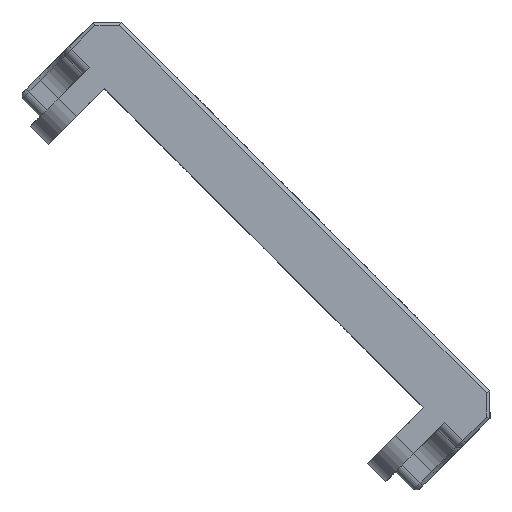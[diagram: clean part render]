
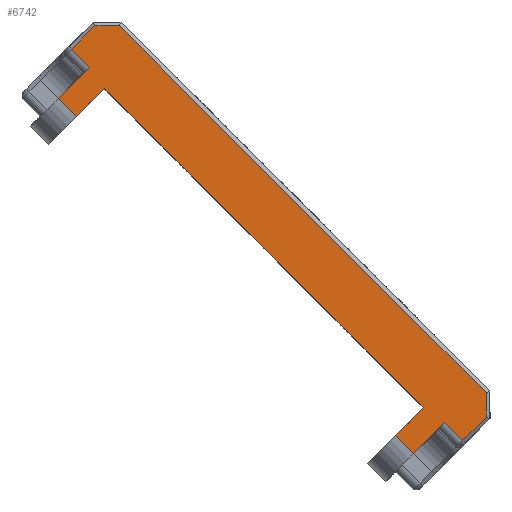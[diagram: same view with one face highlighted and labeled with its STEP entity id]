
A CAD part, front view. The second image highlights one B-rep face of the part: STEP entity #6742.
In plain terms, the highlighted planar face has unit normal (0, -1, 0) as drawn and (-1, 0, 0) by its records, which use the part's own axes.
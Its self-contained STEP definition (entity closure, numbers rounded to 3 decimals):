
#43 = VERTEX_POINT ( 'NONE', #912 ) ;
#245 = VECTOR ( 'NONE', #10653, 1000. ) ;
#825 = CARTESIAN_POINT ( 'NONE',  ( -10., -2., -11.5 ) ) ;
#912 = CARTESIAN_POINT ( 'NONE',  ( -10., -2., 11.5 ) ) ;
#921 = VERTEX_POINT ( 'NONE', #1968 ) ;
#1010 = VECTOR ( 'NONE', #7386, 1000. ) ;
#1085 = EDGE_CURVE ( 'NONE', #12930, #43, #3276, .T. ) ;
#1156 = CARTESIAN_POINT ( 'NONE',  ( -10., 0., 11.5 ) ) ;
#1175 = VERTEX_POINT ( 'NONE', #12119 ) ;
#1220 = CARTESIAN_POINT ( 'NONE',  ( -10., 0., -11.5 ) ) ;
#1415 = CARTESIAN_POINT ( 'NONE',  ( -10., -2., 12.8 ) ) ;
#1460 = VECTOR ( 'NONE', #5106, 1000. ) ;
#1518 = LINE ( 'NONE', #13135, #8448 ) ;
#1664 = CARTESIAN_POINT ( 'NONE',  ( -10., 0., 11.5 ) ) ;
#1678 = LINE ( 'NONE', #1747, #3766 ) ;
#1747 = CARTESIAN_POINT ( 'NONE',  ( -10., 1.917, 14.1 ) ) ;
#1856 = DIRECTION ( 'NONE',  ( 0., -1., 0. ) ) ;
#1968 = CARTESIAN_POINT ( 'NONE',  ( -10., 1.917, 14.1 ) ) ;
#1985 = VECTOR ( 'NONE', #13143, 1000. ) ;
#2526 = CARTESIAN_POINT ( 'NONE',  ( -10., 1.917, -14.1 ) ) ;
#2829 = EDGE_CURVE ( 'NONE', #4693, #10116, #1518, .T. ) ;
#2855 = CARTESIAN_POINT ( 'NONE',  ( -10., 0.25, -14.1 ) ) ;
#2857 = DIRECTION ( 'NONE',  ( 0., -1., 0. ) ) ;
#2974 = EDGE_CURVE ( 'NONE', #6584, #13134, #3874, .T. ) ;
#3192 = LINE ( 'NONE', #4362, #245 ) ;
#3276 = LINE ( 'NONE', #3350, #8897 ) ;
#3350 = CARTESIAN_POINT ( 'NONE',  ( -10., 0., 11.5 ) ) ;
#3653 = CARTESIAN_POINT ( 'NONE',  ( -10., 0.25, 12.8 ) ) ;
#3705 = CARTESIAN_POINT ( 'NONE',  ( -10., 1.917, 14.1 ) ) ;
#3766 = VECTOR ( 'NONE', #2857, 1000. ) ;
#3874 = LINE ( 'NONE', #825, #10103 ) ;
#4140 = VERTEX_POINT ( 'NONE', #9285 ) ;
#4362 = CARTESIAN_POINT ( 'NONE',  ( -10., 0.25, -14.1 ) ) ;
#4417 = CARTESIAN_POINT ( 'NONE',  ( -10., -2., -12.8 ) ) ;
#4656 = DIRECTION ( 'NONE',  ( 0., 0., -1. ) ) ;
#4693 = VERTEX_POINT ( 'NONE', #8414 ) ;
#4694 = LINE ( 'NONE', #12990, #7420 ) ;
#4711 = LINE ( 'NONE', #6651, #1985 ) ;
#4940 = CARTESIAN_POINT ( 'NONE',  ( -10., 0.25, -12.8 ) ) ;
#5055 = VECTOR ( 'NONE', #12353, 1000. ) ;
#5106 = DIRECTION ( 'NONE',  ( 0., -1., 0. ) ) ;
#5738 = EDGE_CURVE ( 'NONE', #11134, #13134, #8979, .T. ) ;
#5779 = ORIENTED_EDGE ( 'NONE', *, *, #12765, .T. ) ;
#5784 = ORIENTED_EDGE ( 'NONE', *, *, #10753, .T. ) ;
#5871 = VECTOR ( 'NONE', #7678, 1000. ) ;
#5899 = VECTOR ( 'NONE', #4656, 1000. ) ;
#6047 = VERTEX_POINT ( 'NONE', #11152 ) ;
#6189 = EDGE_CURVE ( 'NONE', #6894, #11004, #12468, .T. ) ;
#6249 = AXIS2_PLACEMENT_3D ( 'NONE', #7673, #12155, #12987 ) ;
#6584 = VERTEX_POINT ( 'NONE', #9472 ) ;
#6651 = CARTESIAN_POINT ( 'NONE',  ( -10., -2., 12.8 ) ) ;
#6669 = LINE ( 'NONE', #1415, #5899 ) ;
#6742 = ADVANCED_FACE ( 'NONE', ( #6767 ), #8981, .T. ) ;
#6767 = FACE_OUTER_BOUND ( 'NONE', #10856, .T. ) ;
#6894 = VERTEX_POINT ( 'NONE', #6909 ) ;
#6895 = ORIENTED_EDGE ( 'NONE', *, *, #8200, .F. ) ;
#6909 = CARTESIAN_POINT ( 'NONE',  ( -10., 0.25, -14.1 ) ) ;
#7071 = DIRECTION ( 'NONE',  ( 0., 1., 0. ) ) ;
#7386 = DIRECTION ( 'NONE',  ( 0., 0., -1. ) ) ;
#7420 = VECTOR ( 'NONE', #7943, 1000. ) ;
#7575 = EDGE_CURVE ( 'NONE', #4140, #43, #6669, .T. ) ;
#7673 = CARTESIAN_POINT ( 'NONE',  ( -10., 0., -11.5 ) ) ;
#7678 = DIRECTION ( 'NONE',  ( 0., 0., 1. ) ) ;
#7869 = ORIENTED_EDGE ( 'NONE', *, *, #5738, .T. ) ;
#7888 = EDGE_CURVE ( 'NONE', #4693, #11004, #4694, .T. ) ;
#7943 = DIRECTION ( 'NONE',  ( 0., -0.707, -0.707 ) ) ;
#8100 = DIRECTION ( 'NONE',  ( 0., 0., -1. ) ) ;
#8137 = ORIENTED_EDGE ( 'NONE', *, *, #9244, .F. ) ;
#8200 = EDGE_CURVE ( 'NONE', #12930, #8207, #12703, .T. ) ;
#8207 = VERTEX_POINT ( 'NONE', #1220 ) ;
#8414 = CARTESIAN_POINT ( 'NONE',  ( -10., 2.8, -13.217 ) ) ;
#8448 = VECTOR ( 'NONE', #9951, 1000. ) ;
#8516 = ORIENTED_EDGE ( 'NONE', *, *, #7888, .T. ) ;
#8542 = ORIENTED_EDGE ( 'NONE', *, *, #12595, .T. ) ;
#8645 = VECTOR ( 'NONE', #1856, 1000. ) ;
#8720 = LINE ( 'NONE', #3653, #5871 ) ;
#8897 = VECTOR ( 'NONE', #10883, 1000. ) ;
#8921 = EDGE_CURVE ( 'NONE', #6047, #1175, #8720, .T. ) ;
#8979 = LINE ( 'NONE', #13188, #8645 ) ;
#8981 = PLANE ( 'NONE',  #6249 ) ;
#9170 = ORIENTED_EDGE ( 'NONE', *, *, #6189, .F. ) ;
#9244 = EDGE_CURVE ( 'NONE', #8207, #6584, #12443, .T. ) ;
#9285 = CARTESIAN_POINT ( 'NONE',  ( -10., -2., 12.8 ) ) ;
#9472 = CARTESIAN_POINT ( 'NONE',  ( -10., -2., -11.5 ) ) ;
#9529 = CARTESIAN_POINT ( 'NONE',  ( -10., 0., -11.5 ) ) ;
#9880 = ORIENTED_EDGE ( 'NONE', *, *, #8921, .T. ) ;
#9951 = DIRECTION ( 'NONE',  ( 0., 0., 1. ) ) ;
#10103 = VECTOR ( 'NONE', #8100, 1000. ) ;
#10116 = VERTEX_POINT ( 'NONE', #12095 ) ;
#10653 = DIRECTION ( 'NONE',  ( 0., 0., 1. ) ) ;
#10753 = EDGE_CURVE ( 'NONE', #921, #10116, #12286, .T. ) ;
#10856 = EDGE_LOOP ( 'NONE', ( #9170, #8542, #7869, #12084, #8137, #6895, #13070, #11749, #5779, #9880, #11256, #5784, #11429, #8516 ) ) ;
#10883 = DIRECTION ( 'NONE',  ( 0., -1., 0. ) ) ;
#11004 = VERTEX_POINT ( 'NONE', #2526 ) ;
#11134 = VERTEX_POINT ( 'NONE', #4940 ) ;
#11152 = CARTESIAN_POINT ( 'NONE',  ( -10., 0.25, 12.8 ) ) ;
#11256 = ORIENTED_EDGE ( 'NONE', *, *, #13651, .F. ) ;
#11429 = ORIENTED_EDGE ( 'NONE', *, *, #2829, .F. ) ;
#11528 = VECTOR ( 'NONE', #7071, 1000. ) ;
#11749 = ORIENTED_EDGE ( 'NONE', *, *, #7575, .F. ) ;
#12084 = ORIENTED_EDGE ( 'NONE', *, *, #2974, .F. ) ;
#12095 = CARTESIAN_POINT ( 'NONE',  ( -10., 2.8, 13.217 ) ) ;
#12119 = CARTESIAN_POINT ( 'NONE',  ( -10., 0.25, 14.1 ) ) ;
#12155 = DIRECTION ( 'NONE',  ( -1., 0., 0. ) ) ;
#12286 = LINE ( 'NONE', #3705, #5055 ) ;
#12353 = DIRECTION ( 'NONE',  ( 0., 0.707, -0.707 ) ) ;
#12443 = LINE ( 'NONE', #9529, #1460 ) ;
#12468 = LINE ( 'NONE', #2855, #11528 ) ;
#12595 = EDGE_CURVE ( 'NONE', #6894, #11134, #3192, .T. ) ;
#12703 = LINE ( 'NONE', #1156, #1010 ) ;
#12765 = EDGE_CURVE ( 'NONE', #4140, #6047, #4711, .T. ) ;
#12930 = VERTEX_POINT ( 'NONE', #1664 ) ;
#12987 = DIRECTION ( 'NONE',  ( 0., 0., 1. ) ) ;
#12990 = CARTESIAN_POINT ( 'NONE',  ( -10., 2.8, -13.217 ) ) ;
#13070 = ORIENTED_EDGE ( 'NONE', *, *, #1085, .T. ) ;
#13134 = VERTEX_POINT ( 'NONE', #4417 ) ;
#13135 = CARTESIAN_POINT ( 'NONE',  ( -10., 2.8, -13.217 ) ) ;
#13143 = DIRECTION ( 'NONE',  ( 0., 1., 0. ) ) ;
#13188 = CARTESIAN_POINT ( 'NONE',  ( -10., 0.25, -12.8 ) ) ;
#13651 = EDGE_CURVE ( 'NONE', #921, #1175, #1678, .T. ) ;
